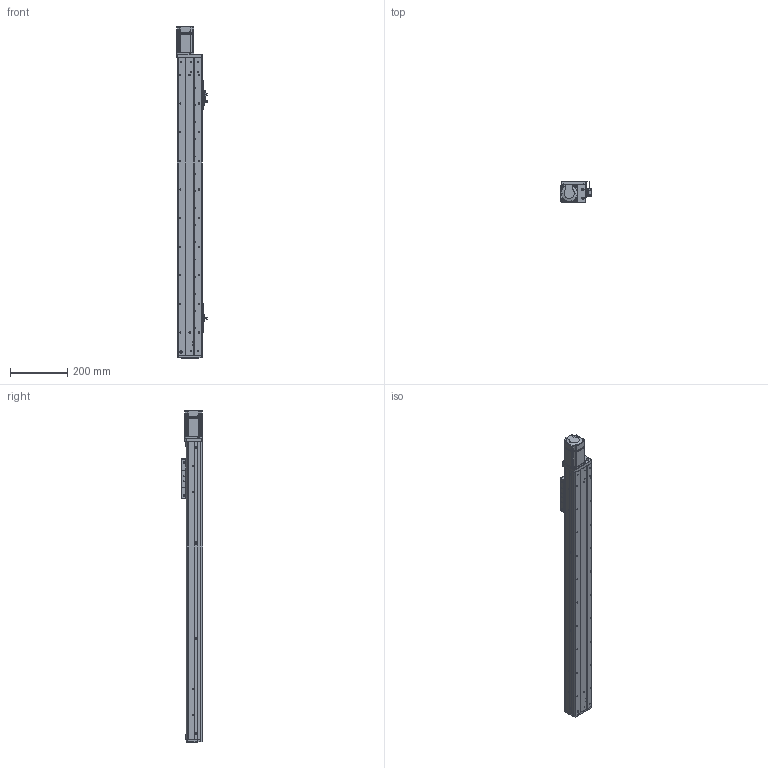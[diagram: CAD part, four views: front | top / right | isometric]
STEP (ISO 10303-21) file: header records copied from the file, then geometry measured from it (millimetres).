
FILE_DESCRIPTION (( 'STEP AP203' ), '1' );
FILE_NAME ('RY80F-L1610-300-MK.SLDASM_800.step', '2021-03-02T03:19:08', ( '盈信电脑' ), ( '东莞市道滘镇水果街19号' ), 'SwSTEP 2.0', 'SolidWorks 2012', '' );
FILE_SCHEMA (( 'CONFIG_CONTROL_DESIGN' ));
Length unit declared in the file: millimetre
Products named in the file (16): RY80俋离覜茼え; RY80F-L1610-300-MK.SLDASM_800; 覜茼ん672; 1; 蚥薯蝶紫輸; 侂狟200W萇儂; 滅袉蝶18-24; RY80F-詩湍揤踡輸; RY80F-綴裔啣(臏璃ㄘ; 672嫖萇羲壽假蚾釱; RY80F-佪裝眻蟀ヶ裔啣(200W PCD70 M4); RY80F-300丝杆直连型材盖板_800; RY80F-300-祥凄詩湍-MK_800; RY80F-滅鳥裔啣; RY80F-丝杆铝滑块(16丝杆）; RY80F-丝杆直连型材底座_800
Assembly tree (21 placements, depth 3):
  RY80F-L1610-300-MK.SLDASM_800
    RY80F-丝杆直连型材底座_800
    RY80F-300丝杆直连型材盖板_800  x2
    RY80F-丝杆铝滑块(16丝杆）
    RY80F-滅鳥裔啣
    RY80F-300-祥凄詩湍-MK_800
    RY80F-佪裝眻蟀ヶ裔啣(200W PCD70 M4)
    RY80F-詩湍揤踡輸  x2
    RY80F-綴裔啣(臏璃ㄘ
    672嫖萇羲壽假蚾釱  x2
    蚥薯蝶紫輸
    滅袉蝶18-24  x2
    侂狟200W萇儂
      1
    RY80俋离覜茼え
    覜茼ん672  x3
Bounding box: 107.2 x 75 x 1160 mm (x, y, z)
Volume: 2159600.3 mm3; surface area: 860234.7 mm2
Topology: 20 solids, 20 shells, 1744 faces, 4839 edges, 3158 vertices
Faces by surface type: plane 809, cylinder 808, cone 109, bspline 18
Entity records: 50847 total; most frequent: CARTESIAN_POINT 11235, ORIENTED_EDGE 7950, DIRECTION 7825, EDGE_CURVE 3975, AXIS2_PLACEMENT_3D 2750, VERTEX_POINT 2610, LINE 2325, VECTOR 2325
